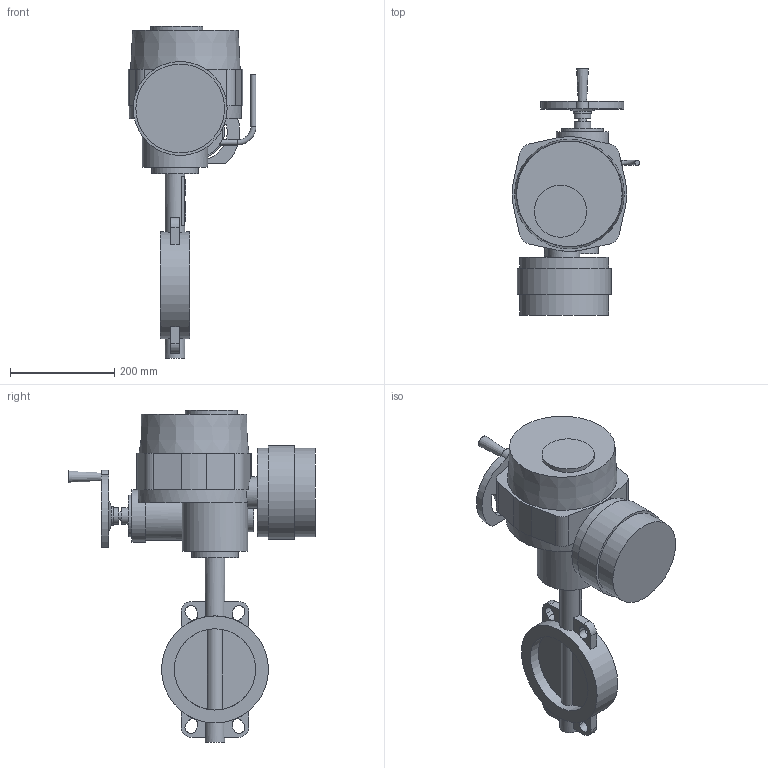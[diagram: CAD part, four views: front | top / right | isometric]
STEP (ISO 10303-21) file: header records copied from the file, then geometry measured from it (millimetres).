
FILE_DESCRIPTION(('STEP AP203'), '1');
FILE_NAME('Çàòâîð 017W.Z(÷óãóí) DN150+ÝÏ QT.A015', '', ('UNSPECIFIED'), ('UNSPECIFIED'), 'ASCON STEP Converter 1.6', 'ASCON Math Kernel', '');
FILE_SCHEMA(('CONFIG_CONTROL_DESIGN'));
Length unit declared in the file: millimetre
Bounding box: 244.71 x 472 x 636 mm (x, y, z)
Volume: 11252482.7 mm3; surface area: 612533.5 mm2
Topology: 1 solids, 2 shells, 847 faces, 2455 edges, 1581 vertices
Faces by surface type: cylinder 619, plane 224, cone 3, torus 1
Full cylindrical faces by diameter (mm): 6.7 x8, 10 x6, 16 x1, 18.9 x1, 22 x1, 32 x2, 35 x1, 38 x2, 55 x1, 60 x1, 80 x1, 90 x1, 100 x2, 125 x1, 155.7 x2, 170 x2, 180 x1, 205 x1
Entity records: 36320 total; most frequent: CARTESIAN_POINT 6115, DIRECTION 5398, ORIENTED_EDGE 4750, EDGE_CURVE 2414, AXIS2_PLACEMENT_3D 2164, VERTEX_POINT 1579, CIRCLE 1317, LINE 1070
